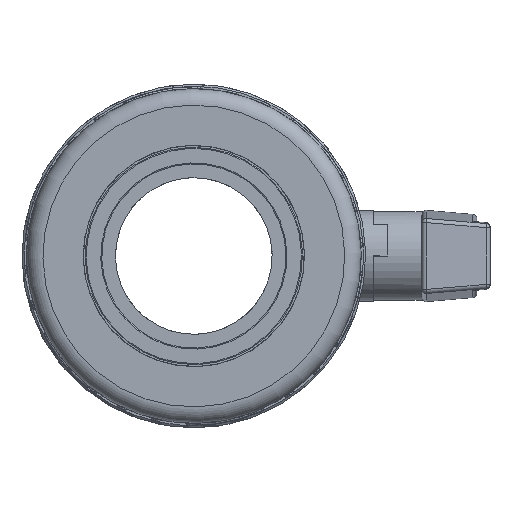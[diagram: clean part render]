
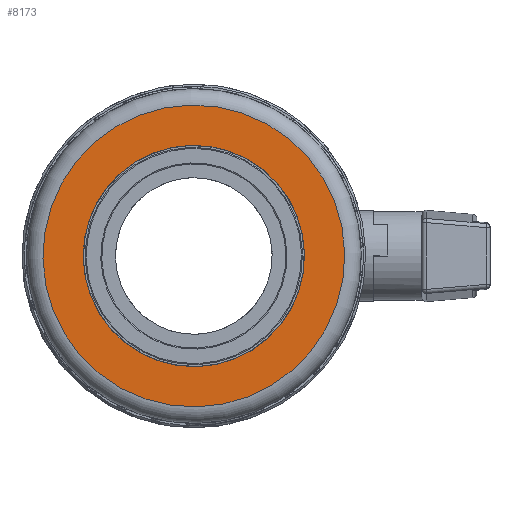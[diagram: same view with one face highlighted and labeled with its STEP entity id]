
A CAD part, front view. The second image highlights one B-rep face of the part: STEP entity #8173.
In plain terms, the highlighted planar face has unit normal (0, -1, 0).
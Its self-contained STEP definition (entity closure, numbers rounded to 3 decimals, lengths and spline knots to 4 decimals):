
#1612=FACE_BOUND('',#2343,.T.);
#1848=FACE_OUTER_BOUND('',#2342,.T.);
#2342=EDGE_LOOP('',(#5872));
#2343=EDGE_LOOP('',(#5873));
#2863=CIRCLE('',#8751,7.375);
#2864=CIRCLE('',#8752,5.41);
#3418=VERTEX_POINT('',#34344);
#3419=VERTEX_POINT('',#34346);
#4335=EDGE_CURVE('',#3418,#3418,#2863,.T.);
#4336=EDGE_CURVE('',#3419,#3419,#2864,.T.);
#5872=ORIENTED_EDGE('',*,*,#4335,.F.);
#5873=ORIENTED_EDGE('',*,*,#4336,.T.);
#7412=PLANE('',#8750);
#8173=ADVANCED_FACE('',(#1848,#1612),#7412,.T.);
#8750=AXIS2_PLACEMENT_3D('',#34343,#10006,#10007);
#8751=AXIS2_PLACEMENT_3D('',#34345,#10008,#10009);
#8752=AXIS2_PLACEMENT_3D('',#34347,#10010,#10011);
#10006=DIRECTION('center_axis',(0.,-1.,0.));
#10007=DIRECTION('ref_axis',(-0.324,0.,-0.946));
#10008=DIRECTION('center_axis',(0.,1.,0.));
#10009=DIRECTION('ref_axis',(0.946,0.,-0.324));
#10010=DIRECTION('center_axis',(0.,1.,0.));
#10011=DIRECTION('ref_axis',(0.946,0.,-0.324));
#34343=CARTESIAN_POINT('Origin',(-6.9778,-8.67,2.3878));
#34344=CARTESIAN_POINT('',(-6.9778,-8.67,2.3878));
#34345=CARTESIAN_POINT('Origin',(0.,-8.67,
0.));
#34346=CARTESIAN_POINT('',(-5.1186,-8.67,1.7516));
#34347=CARTESIAN_POINT('Origin',(0.,-8.67,
0.));
